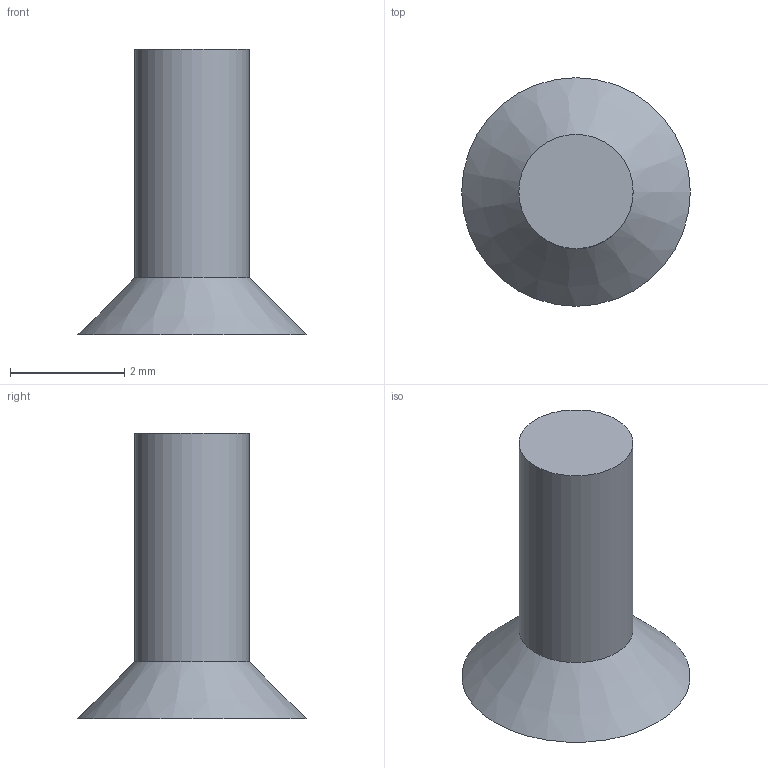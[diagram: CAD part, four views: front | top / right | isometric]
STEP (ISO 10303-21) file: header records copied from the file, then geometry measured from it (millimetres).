
FILE_DESCRIPTION(('Open CASCADE Model'),'2;1');
FILE_NAME('Open CASCADE Shape Model','2026-09-15T13:32:13',('Author'),( 'Open CASCADE'),'Open CASCADE STEP processor 7.7','Open CASCADE 7.7' ,'Unknown');
FILE_SCHEMA(('AUTOMOTIVE_DESIGN { 1 0 10303 214 1 1 1 1 }'));
Length unit declared in the file: millimetre
Products named in the file (1): HP_P11_-9.1_M2x5_CS_REFERENCE
Bounding box: 4 x 4 x 5 mm (x, y, z)
Volume: 19.9 mm3; surface area: 54.2 mm2
Topology: 1 solids, 1 shells, 4 faces, 5 edges, 3 vertices
Faces by surface type: plane 2, cone 1, cylinder 1
Full cylindrical faces by diameter (mm): 2 x1
Entity records: 159 total; most frequent: DIRECTION 28, CARTESIAN_POINT 23, ORIENTED_EDGE 10, PCURVE 10, DEFINITIONAL_REPRESENTATION 10, LINE 10, VECTOR 10, AXIS2_PLACEMENT_3D 8
